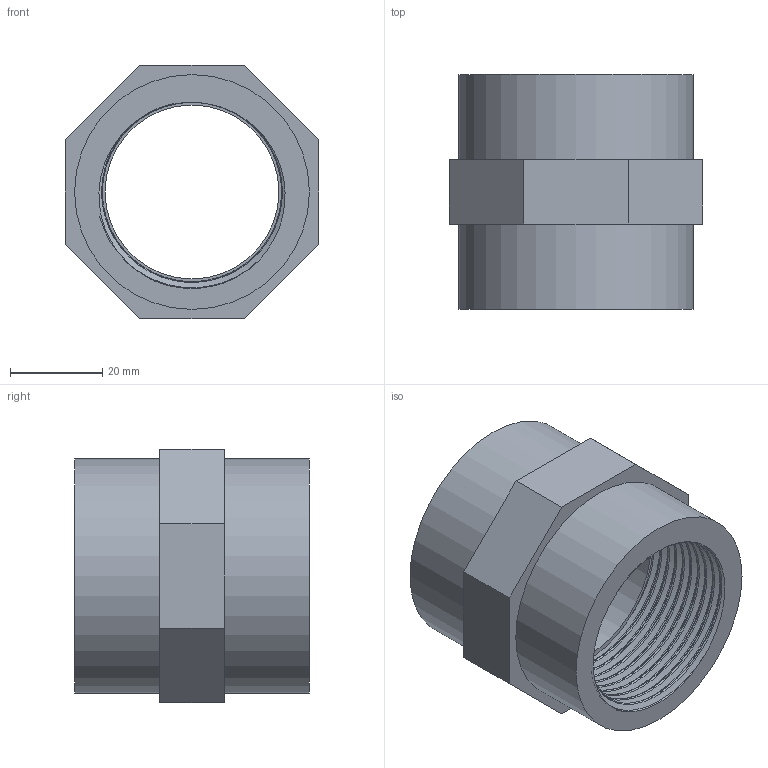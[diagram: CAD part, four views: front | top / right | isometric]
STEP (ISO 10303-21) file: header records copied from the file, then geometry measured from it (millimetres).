
FILE_DESCRIPTION(/* description */ ('PVC manicotto filettato BSP femmina'),/* implementation_level */ '2;1');
FILE_NAME(/* name */ 'C:\Users\POLYPIPE\Desktop\DATASET INVENTOR\LIBRERIA EFFAST\RACCORDI 3DxWEB\RER\3D_RERMAE\3D_RERMAE040E.stp',/* time_stamp */ '2018-01-19T16:37:20+01:00',/* author */ ('POLYPIPE'),/* organization */ ('Polypipe Italia'),/* preprocessor_version */ 'ST-DEVELOPER v16.1',/* originating_system */ 'Autodesk Inventor 2016',/* authorisation */ '');
FILE_SCHEMA (('CONFIG_CONTROL_DESIGN'));
Length unit declared in the file: millimetre
Products named in the file (1): 3D_RERMAE
Bounding box: 55 x 51 x 55 mm (x, y, z)
Volume: 46480.9 mm3; surface area: 21532 mm2
Topology: 1 solids, 1 shells, 27 faces, 63 edges, 42 vertices
Faces by surface type: plane 14, bspline 10, cylinder 3
Full cylindrical faces by diameter (mm): 37.752 x1, 51 x2
Entity records: 8150 total; most frequent: CARTESIAN_POINT 7594, ORIENTED_EDGE 120, DIRECTION 72, EDGE_CURVE 60, VERTEX_POINT 42, EDGE_LOOP 36, B_SPLINE_CURVE_WITH_KNOTS 30, FACE_OUTER_BOUND 27
